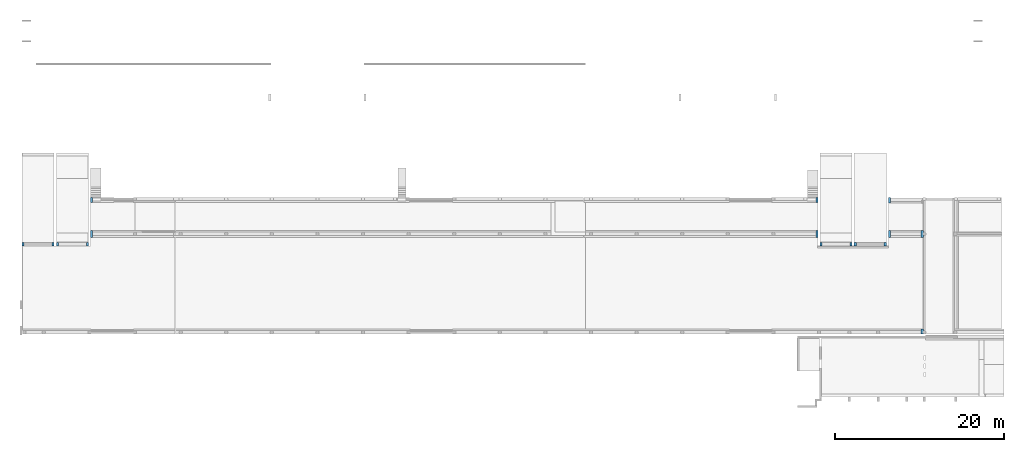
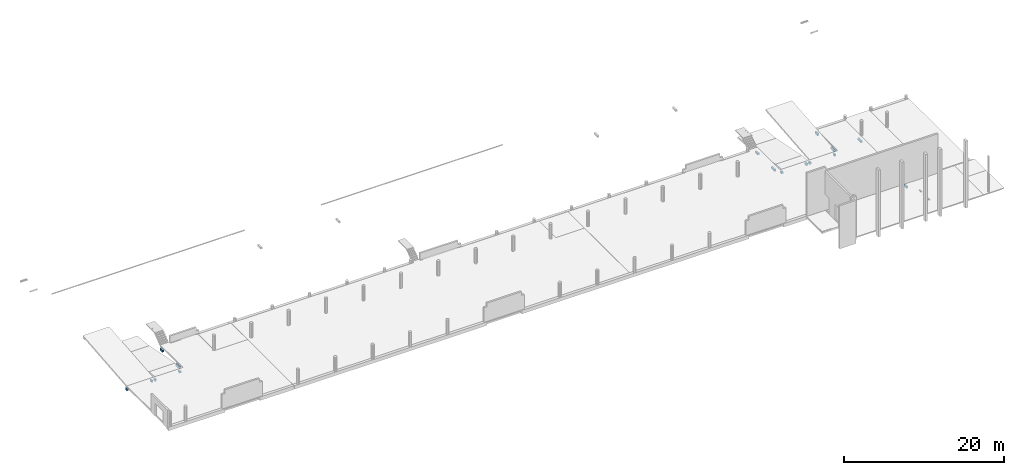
# One storey, part 8 of 9: 16 walls.
"""IFC2X3 building model written with IfcOpenShell, lengths in millimetres."""

from ifc_helpers import new_model, entity, si_unit, converted_unit, derived_unit, direction, frame, origin, place, context, subcontext, project, spatial, faceted_brep, material, type_object, element, save


model = new_model("IFC2X3")

# Units and contexts
model_context = context("Model", 3, precision=0.01, world=origin(), true_north=direction((6.12303176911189e-17, 1.0)))
body_context = subcontext(model_context, "Body", "Model", "MODEL_VIEW")
ifc_project = project(units=[si_unit("LENGTHUNIT", "METRE", prefix="MILLI"), si_unit("AREAUNIT", "SQUARE_METRE"), si_unit("VOLUMEUNIT", "CUBIC_METRE"), converted_unit("PLANEANGLEUNIT", "DEGREE", entity("IfcRatioMeasure", 0.0174532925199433), si_unit("PLANEANGLEUNIT", "RADIAN"), dimensions=[0, 0, 0, 0, 0, 0, 0]), si_unit("MASSUNIT", "GRAM", prefix="KILO"), derived_unit("MASSDENSITYUNIT", [(si_unit("MASSUNIT", "GRAM", prefix="KILO"), 1), (si_unit("LENGTHUNIT", "METRE"), -3)]), si_unit("TIMEUNIT", "SECOND"), si_unit("FREQUENCYUNIT", "HERTZ"), si_unit("THERMODYNAMICTEMPERATUREUNIT", "DEGREE_CELSIUS"), derived_unit("THERMALTRANSMITTANCEUNIT", [(si_unit("MASSUNIT", "GRAM", prefix="KILO"), 1), (si_unit("THERMODYNAMICTEMPERATUREUNIT", "KELVIN"), -1), (si_unit("TIMEUNIT", "SECOND"), -3)]), derived_unit("VOLUMETRICFLOWRATEUNIT", [(si_unit("LENGTHUNIT", "METRE"), 3), (si_unit("TIMEUNIT", "SECOND"), -1)]), si_unit("ELECTRICCURRENTUNIT", "AMPERE"), si_unit("ELECTRICVOLTAGEUNIT", "VOLT"), si_unit("POWERUNIT", "WATT"), si_unit("FORCEUNIT", "NEWTON", prefix="KILO"), si_unit("ILLUMINANCEUNIT", "LUX"), si_unit("LUMINOUSFLUXUNIT", "LUMEN"), si_unit("LUMINOUSINTENSITYUNIT", "CANDELA"), derived_unit("USERDEFINED", [(si_unit("MASSUNIT", "GRAM", prefix="KILO"), -1), (si_unit("LENGTHUNIT", "METRE"), -2), (si_unit("TIMEUNIT", "SECOND"), 3), (si_unit("LUMINOUSFLUXUNIT", "LUMEN"), 1)]), derived_unit("LINEARVELOCITYUNIT", [(si_unit("LENGTHUNIT", "METRE"), 1), (si_unit("TIMEUNIT", "SECOND"), -1)]), si_unit("PRESSUREUNIT", "PASCAL"), derived_unit("USERDEFINED", [(si_unit("LENGTHUNIT", "METRE"), -2), (si_unit("MASSUNIT", "GRAM", prefix="KILO"), 1), (si_unit("TIMEUNIT", "SECOND"), -2)])], contexts=[model_context])

# Site, building, storey
site_placement = place(None, origin())
site = spatial("IfcSite", under=ifc_project, at=site_placement, Name="Default", CompositionType="ELEMENT")
building_placement = place(site_placement, origin())
building = spatial("IfcBuilding", under=site, at=building_placement, Name="niet gebruiken", CompositionType="ELEMENT")
storey_placement = place(building_placement, frame((0.0, 0.0, 5570.0)))
storey = spatial("IfcBuildingStorey", under=building, at=storey_placement, Name="01b tweede tussenverdieping", CompositionType="ELEMENT", Elevation=5570.0)

# Walls
ifc_material = material(Name="NLRS_f2_beton prefab")
wall_type_1 = type_object("IfcWallType", Name="NLRS_21.21_SF_WPB_oplegnok prefabbeton_gen:250x310", PredefinedType="NOTDEFINED", material=ifc_material)
for number, where, z_axis, x_axis, name in (
    (1, (16325.0, 20446.0, -850.0), (0.0, 0.0, 1.0), (0.0, 1.0, 0.0), "NLRS_21.21_SF_WPB_oplegnok prefabbeton_gen:250x310"),
    (2, (110825.0, 20446.0, -850.0), (0.0, 0.0, 1.0), (0.0, 1.0, 0.0), "NLRS_21.21_SF_WPB_oplegnok prefabbeton_gen:250x310"),
):
    element("IfcWall", number, at=place(storey_placement, frame(where, z_axis=z_axis, x_axis=x_axis)), inside=storey, type_object=wall_type_1, material=ifc_material, Name=name, ObjectType="NLRS_21.21_SF_WPB_oplegnok prefabbeton_gen:250x310", context=body_context, shape_type="Brep", body=[
        faceted_brep([(0.0, 0.0, 310.0), (0.0, 0.0, 0.0), (0.0, -250.0, 39.9987607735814), (0.0, -250.0, 310.0), (800.0, 0.0, 310.0), (800.0, -250.0, 310.0), (800.0, -250.0, 39.9987607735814), (800.0, 0.0, 0.0)], [[[0, 1, 2, 3]], [[4, 5, 6, 7]], [[1, 0, 4, 7]], [[3, 2, 6, 5]], [[0, 3, 5, 4]], [[2, 1, 7, 6]]]),
    ])
wall_1_placement = place(storey_placement, frame((110825.0, 24508.5, -850.0), z_axis=(0.0, 0.0, 1.0), x_axis=(0.0, 1.0, 0.0)))
element("IfcWall", 3, at=wall_1_placement, inside=storey, type_object=wall_type_1, material=ifc_material, Name="NLRS_21.21_SF_WPB_oplegnok prefabbeton_gen:250x310", ObjectType="NLRS_21.21_SF_WPB_oplegnok prefabbeton_gen:250x310", context=body_context, shape_type="Brep", body=[
    faceted_brep([(0.0, 0.0, 310.0), (0.0, 0.0, 0.0), (0.0, -250.0, 39.9987607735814), (0.0, -250.0, 310.0), (667.499999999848, 0.0, 310.0), (667.499999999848, -250.0, 310.0), (667.499999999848, -250.0, 39.9987607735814), (667.499999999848, 0.0, 0.0)], [[[0, 1, 2, 3]], [[4, 5, 6, 7]], [[1, 0, 4, 7]], [[3, 2, 6, 5]], [[0, 3, 5, 4]], [[2, 1, 7, 6]]]),
])
wall_2_placement = place(storey_placement, frame((16325.0, 24576.0, -850.0), z_axis=(0.0, 0.0, 1.0), x_axis=(0.0, 1.0, 0.0)))
element("IfcWall", 4, at=wall_2_placement, inside=storey, type_object=wall_type_1, material=ifc_material, Name="NLRS_21.21_SF_WPB_oplegnok prefabbeton_gen:250x310", ObjectType="NLRS_21.21_SF_WPB_oplegnok prefabbeton_gen:250x310", context=body_context, shape_type="Brep", body=[
    faceted_brep([(0.0, 0.0, 310.0), (0.0, 0.0, 0.0), (0.0, -250.0, 39.9987607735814), (0.0, -250.0, 310.0), (600.0, 0.0, 310.0), (600.0, -250.0, 310.0), (600.0, -250.0, 39.9987607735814), (600.0, 0.0, 0.0)], [[[0, 1, 2, 3]], [[4, 5, 6, 7]], [[1, 0, 4, 7]], [[3, 2, 6, 5]], [[0, 3, 5, 4]], [[2, 1, 7, 6]]]),
])
wall_3_placement = place(storey_placement, frame((114700.00037072, 20446.0, -850.0), z_axis=(0.0, 0.0, 1.0), x_axis=(0.0, 1.0, 0.0)))
element("IfcWall", 5, at=wall_3_placement, inside=storey, type_object=wall_type_1, material=ifc_material, Name="NLRS_21.21_SF_WPB_oplegnok prefabbeton_gen:250x310", ObjectType="NLRS_21.21_SF_WPB_oplegnok prefabbeton_gen:250x310", context=body_context, shape_type="Brep", body=[
    faceted_brep([(0.0, -250.0, 310.0), (0.0, 0.0, 310.0), (0.0, 0.0, 39.9987607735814), (0.0, -250.0, 0.0), (800.0, 0.0, 39.9987607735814), (800.0, -250.0, 0.0), (800.0, -250.0, 310.0), (800.0, 0.0, 310.0)], [[[0, 1, 2, 3]], [[2, 4, 5, 3]], [[6, 5, 4, 7]], [[3, 5, 6, 0]], [[1, 7, 4, 2]], [[0, 6, 7, 1]]]),
])
wall_4_placement = place(storey_placement, frame((102225.0, 20446.0, -850.0), z_axis=(0.0, 0.0, 1.0), x_axis=(0.0, 1.0, 0.0)))
element("IfcWall", 6, at=wall_4_placement, inside=storey, type_object=wall_type_1, material=ifc_material, Name="NLRS_21.21_SF_WPB_oplegnok prefabbeton_gen:250x310", ObjectType="NLRS_21.21_SF_WPB_oplegnok prefabbeton_gen:250x310", context=body_context, shape_type="Brep", body=[
    faceted_brep([(0.0, -250.0, 310.0), (0.0, 0.0, 310.0), (0.0, 0.0, 39.9987607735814), (0.0, -250.0, 0.0), (800.0, -250.0, 310.0), (800.0, -250.0, 0.0), (800.0, 0.0, 39.9987607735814), (800.0, 0.0, 310.0)], [[[0, 1, 2, 3]], [[4, 5, 6, 7]], [[3, 5, 4, 0]], [[1, 7, 6, 2]], [[0, 4, 7, 1]], [[2, 6, 5, 3]]]),
])
for number, where, z_axis, x_axis, name in (
    (7, (102225.0, 24576.0, -850.0), (0.0, 0.0, 1.0), (0.0, 1.0, 0.0), "NLRS_21.21_SF_WPB_oplegnok prefabbeton_gen:250x310"),
    (8, (114700.0, 8996.0, -850.0), (0.0, 0.0, 1.0), (0.0, 1.0, 0.0), "NLRS_21.21_SF_WPB_oplegnok prefabbeton_gen:250x310"),
):
    element("IfcWall", number, at=place(storey_placement, frame(where, z_axis=z_axis, x_axis=x_axis)), inside=storey, type_object=wall_type_1, material=ifc_material, Name=name, ObjectType="NLRS_21.21_SF_WPB_oplegnok prefabbeton_gen:250x310", context=body_context, shape_type="Brep", body=[
        faceted_brep([(0.0, -250.0, 310.0), (0.0, 0.0, 310.0), (0.0, 0.0, 39.9987607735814), (0.0, -250.0, 0.0), (600.0, -250.0, 310.0), (600.0, -250.0, 0.0), (600.0, 0.0, 39.9987607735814), (600.0, 0.0, 310.0)], [[[0, 1, 2, 3]], [[4, 5, 6, 7]], [[3, 5, 4, 0]], [[1, 7, 6, 2]], [[0, 4, 7, 1]], [[2, 6, 5, 3]]]),
    ])
wall_type_2 = type_object("IfcWallType", Name="NLRS_21.21_SF_WPB_oplegnok prefabbeton_gen:250x270 met afschuining 9gr", PredefinedType="NOTDEFINED", material=ifc_material)
wall_5_placement = place(storey_placement, frame((12275.0, 19426.0, -770.0), z_axis=(0.0, 0.0, 1.0), x_axis=(0.0, 1.0, 0.0)))
element("IfcWall", 9, at=wall_5_placement, inside=storey, type_object=wall_type_2, material=ifc_material, Name="NLRS_21.21_SF_WPB_oplegnok prefabbeton_gen:250x270 met afschuining 9gr", ObjectType="NLRS_21.21_SF_WPB_oplegnok prefabbeton_gen:250x270 met afschuining 9gr", context=body_context, shape_type="Brep", body=[
    faceted_brep([(0.0, 0.0, 310.0), (0.0, 0.0, 0.0), (0.0, -250.0, 39.5961100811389), (0.0, -250.0, 310.0), (380.0, 0.0, 310.0), (380.0, -250.0, 310.0), (380.0, -250.0, 39.5961100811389), (380.0, 0.0, 0.0)], [[[0, 1, 2, 3]], [[4, 5, 6, 7]], [[1, 0, 4, 7]], [[3, 2, 6, 5]], [[0, 3, 5, 4]], [[2, 1, 7, 6]]]),
])
wall_6_placement = place(storey_placement, frame((11775.0, 19426.0, -770.0), z_axis=(0.0, 0.0, 1.0), x_axis=(0.0, 1.0, 0.0)))
element("IfcWall", 10, at=wall_6_placement, inside=storey, type_object=wall_type_2, material=ifc_material, Name="NLRS_21.21_SF_WPB_oplegnok prefabbeton_gen:250x270 met afschuining 9gr", ObjectType="NLRS_21.21_SF_WPB_oplegnok prefabbeton_gen:250x270 met afschuining 9gr", context=body_context, shape_type="Brep", body=[
    faceted_brep([(0.0, -250.0, 310.0), (0.0, 0.0, 310.0), (0.0, 0.0, 39.5961100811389), (0.0, -250.0, 0.0), (380.0, -250.0, 310.0), (380.0, -250.0, 0.0), (380.0, 0.0, 39.5961100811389), (380.0, 0.0, 310.0)], [[[0, 1, 2, 3]], [[4, 5, 6, 7]], [[3, 5, 4, 0]], [[1, 7, 6, 2]], [[0, 4, 7, 1]], [[2, 6, 5, 3]]]),
])
wall_7_placement = place(storey_placement, frame((8225.0, 19426.0, -770.0), z_axis=(0.0, 0.0, 1.0), x_axis=(0.0, 1.0, 0.0)))
element("IfcWall", 11, at=wall_7_placement, inside=storey, type_object=wall_type_2, material=ifc_material, Name="NLRS_21.21_SF_WPB_oplegnok prefabbeton_gen:250x270 met afschuining 9gr", ObjectType="NLRS_21.21_SF_WPB_oplegnok prefabbeton_gen:250x270 met afschuining 9gr", context=body_context, shape_type="Brep", body=[
    faceted_brep([(0.0, 0.0, 310.0), (0.0, 0.0, 0.0), (0.0, -250.0, 39.5961100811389), (0.0, -250.0, 310.0), (380.0, 0.0, 310.0), (380.0, -250.0, 310.0), (380.0, -250.0, 39.5961100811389), (380.0, 0.0, 0.0)], [[[0, 1, 2, 3]], [[4, 5, 6, 7]], [[1, 0, 4, 7]], [[3, 2, 6, 5]], [[0, 3, 5, 4]], [[2, 1, 7, 6]]]),
])
wall_8_placement = place(storey_placement, frame((15825.0, 19426.0, -770.0), z_axis=(0.0, 0.0, 1.0), x_axis=(0.0, 1.0, 0.0)))
element("IfcWall", 12, at=wall_8_placement, inside=storey, type_object=wall_type_2, material=ifc_material, Name="NLRS_21.21_SF_WPB_oplegnok prefabbeton_gen:250x270 met afschuining 9gr", ObjectType="NLRS_21.21_SF_WPB_oplegnok prefabbeton_gen:250x270 met afschuining 9gr", context=body_context, shape_type="Brep", body=[
    faceted_brep([(0.0, -250.0, 310.0), (0.0, 0.0, 310.0), (0.0, 0.0, 39.5961100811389), (0.0, -250.0, 0.0), (380.0, -250.0, 310.0), (380.0, -250.0, 0.0), (380.0, 0.0, 39.5961100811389), (380.0, 0.0, 310.0)], [[[0, 1, 2, 3]], [[4, 5, 6, 7]], [[3, 5, 4, 0]], [[1, 7, 6, 2]], [[0, 4, 7, 1]], [[2, 6, 5, 3]]]),
])
wall_type_3 = type_object("IfcWallType", Name="NLRS_21.21_SF_WPB_oplegnok prefabbeton_gen:250x270 met afschuining -9gr", PredefinedType="NOTDEFINED", material=ifc_material)
wall_9_placement = place(storey_placement, frame((106275.0, 19426.0, -769.596110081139), z_axis=(0.0, 0.0, 1.0), x_axis=(0.0, 1.0, 0.0)))
element("IfcWall", 13, at=wall_9_placement, inside=storey, type_object=wall_type_3, material=ifc_material, Name="NLRS_21.21_SF_WPB_oplegnok prefabbeton_gen:250x270 met afschuining -9gr", ObjectType="NLRS_21.21_SF_WPB_oplegnok prefabbeton_gen:250x270 met afschuining -9gr", context=body_context, shape_type="Brep", body=[
    faceted_brep([(0.0, 0.0, 309.596110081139), (0.0, 0.0, 39.5961100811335), (0.0, -250.0, 0.0), (0.0, -250.0, 309.596110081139), (380.0, 0.0, 309.596110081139), (380.0, -250.0, 309.596110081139), (380.0, -250.0, 0.0), (380.0, 0.0, 39.5961100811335)], [[[0, 1, 2, 3]], [[4, 5, 6, 7]], [[1, 0, 4, 7]], [[3, 2, 6, 5]], [[0, 3, 5, 4]], [[2, 1, 7, 6]]]),
])
wall_10_placement = place(storey_placement, frame((106775.0, 19426.0, -769.596110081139), z_axis=(0.0, 0.0, 1.0), x_axis=(0.0, 1.0, 0.0)))
element("IfcWall", 14, at=wall_10_placement, inside=storey, type_object=wall_type_3, material=ifc_material, Name="NLRS_21.21_SF_WPB_oplegnok prefabbeton_gen:250x270 met afschuining -9gr", ObjectType="NLRS_21.21_SF_WPB_oplegnok prefabbeton_gen:250x270 met afschuining -9gr", context=body_context, shape_type="Brep", body=[
    faceted_brep([(0.0, -250.0, 309.596110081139), (0.0, 0.0, 309.596110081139), (0.0, 0.0, 0.0), (0.0, -250.0, 39.5961100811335), (380.0, -250.0, 309.596110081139), (380.0, -250.0, 39.5961100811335), (380.0, 0.0, 0.0), (380.0, 0.0, 309.596110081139)], [[[0, 1, 2, 3]], [[4, 5, 6, 7]], [[3, 5, 4, 0]], [[1, 7, 6, 2]], [[0, 4, 7, 1]], [[2, 6, 5, 3]]]),
])
wall_11_placement = place(storey_placement, frame((110325.0, 19426.0, -769.596110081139), z_axis=(0.0, 0.0, 1.0), x_axis=(0.0, 1.0, 0.0)))
element("IfcWall", 15, at=wall_11_placement, inside=storey, type_object=wall_type_3, material=ifc_material, Name="NLRS_21.21_SF_WPB_oplegnok prefabbeton_gen:250x270 met afschuining -9gr", ObjectType="NLRS_21.21_SF_WPB_oplegnok prefabbeton_gen:250x270 met afschuining -9gr", context=body_context, shape_type="Brep", body=[
    faceted_brep([(0.0, 0.0, 309.596110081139), (0.0, 0.0, 39.5961100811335), (0.0, -250.0, 0.0), (0.0, -250.0, 309.596110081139), (380.0, 0.0, 309.596110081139), (380.0, -250.0, 309.596110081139), (380.0, -250.0, 0.0), (380.0, 0.0, 39.5961100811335)], [[[0, 1, 2, 3]], [[4, 5, 6, 7]], [[1, 0, 4, 7]], [[3, 2, 6, 5]], [[0, 3, 5, 4]], [[2, 1, 7, 6]]]),
])
wall_12_placement = place(storey_placement, frame((102725.0, 19426.0, -769.596110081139), z_axis=(0.0, 0.0, 1.0), x_axis=(0.0, 1.0, 0.0)))
element("IfcWall", 16, at=wall_12_placement, inside=storey, type_object=wall_type_3, material=ifc_material, Name="NLRS_21.21_SF_WPB_oplegnok prefabbeton_gen:250x270 met afschuining -9gr", ObjectType="NLRS_21.21_SF_WPB_oplegnok prefabbeton_gen:250x270 met afschuining -9gr", context=body_context, shape_type="Brep", body=[
    faceted_brep([(0.0, -250.0, 309.596110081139), (0.0, 0.0, 309.596110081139), (0.0, 0.0, 0.0), (0.0, -250.0, 39.5961100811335), (380.0, -250.0, 309.596110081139), (380.0, -250.0, 39.5961100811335), (380.0, 0.0, 0.0), (380.0, 0.0, 309.596110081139)], [[[0, 1, 2, 3]], [[4, 5, 6, 7]], [[3, 5, 4, 0]], [[1, 7, 6, 2]], [[0, 4, 7, 1]], [[2, 6, 5, 3]]]),
])

save(model, "model.ifc")
